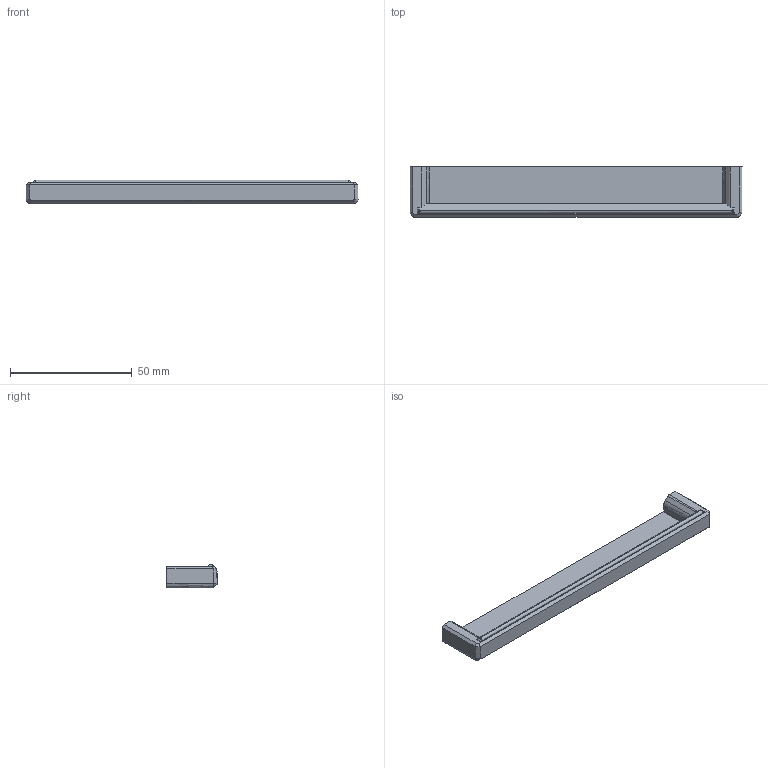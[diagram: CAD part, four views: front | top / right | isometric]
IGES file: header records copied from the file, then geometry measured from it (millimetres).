
Start section: C
Global section: file name: 8215-137.igs; native system: By Siemens PLM Incorporated; preprocessor: XPlus GENERIC/IGES 16.0.42; author: Author; organization: Title; date: 20200903.151652; units: millimetre
Bounding box: 136.59 x 20.63 x 9.8 mm (x, y, z)
Surface area: 9405.9 mm2 (no closed solid volume)
Topology: 0 solids, 0 shells, 62 faces, 402 edges, 402 vertices
Faces by surface type: bspline 62
